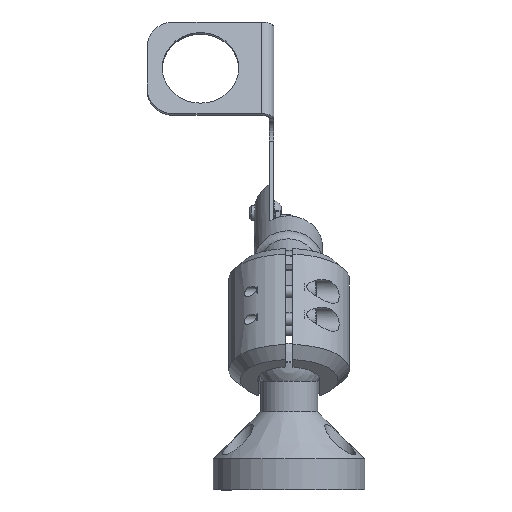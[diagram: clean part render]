
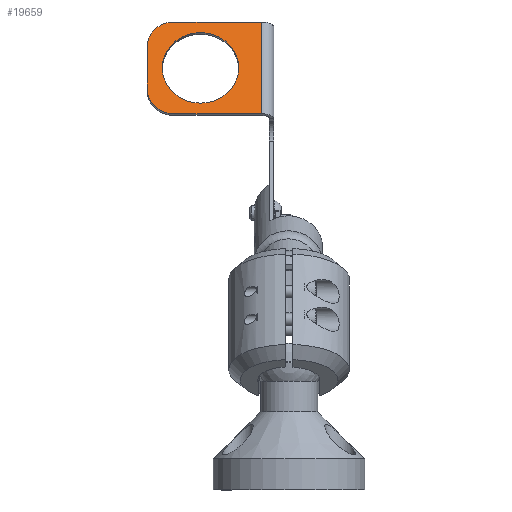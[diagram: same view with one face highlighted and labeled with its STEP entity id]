
A CAD part, left-side view. The second image highlights one B-rep face of the part: STEP entity #19659.
In plain terms, the highlighted planar face has unit normal (-0.925, 0, 0.38) as drawn and (0, 0, 1) by its records, which use the part's own axes.
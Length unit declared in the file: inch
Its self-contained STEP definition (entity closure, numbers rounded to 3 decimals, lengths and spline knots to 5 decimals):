
#51 = EDGE_CURVE ( 'NONE', #28919, #33218, #30068, .T. ) ;
#465 = CARTESIAN_POINT ( 'NONE',  ( 1.625, 0., 0.1997 ) ) ;
#805 = CARTESIAN_POINT ( 'NONE',  ( 0.4375, -2.0747, 0.1997 ) ) ;
#1961 = CARTESIAN_POINT ( 'NONE',  ( 1.1875, -1.6372, 0.1997 ) ) ;
#2208 = DIRECTION ( 'NONE',  ( 0., 1., 0. ) ) ;
#4703 = CIRCLE ( 'NONE', #22935, 0.4375 ) ;
#4955 = VERTEX_POINT ( 'NONE', #20790 ) ;
#5374 = VECTOR ( 'NONE', #36937, 39.37008 ) ;
#5850 = EDGE_CURVE ( 'NONE', #37094, #21529, #9702, .T. ) ;
#6815 = VERTEX_POINT ( 'NONE', #805 ) ;
#7181 = CARTESIAN_POINT ( 'NONE',  ( 0.8125, -1.1997, 0.1997 ) ) ;
#7410 = ORIENTED_EDGE ( 'NONE', *, *, #33200, .T. ) ;
#7544 = VECTOR ( 'NONE', #22865, 39.37008 ) ;
#7785 = ORIENTED_EDGE ( 'NONE', *, *, #5850, .T. ) ;
#7902 = ORIENTED_EDGE ( 'NONE', *, *, #18996, .T. ) ;
#9702 = LINE ( 'NONE', #465, #28144 ) ;
#9732 = FACE_BOUND ( 'NONE', #31913, .T. ) ;
#10153 = VERTEX_POINT ( 'NONE', #17416 ) ;
#12707 = CIRCLE ( 'NONE', #38761, 0.4375 ) ;
#13414 = EDGE_LOOP ( 'NONE', ( #21210, #7410, #7902, #26864, #7785, #19934 ) ) ;
#13983 = DIRECTION ( 'NONE',  ( 0., 1., 0. ) ) ;
#15012 = EDGE_CURVE ( 'NONE', #4955, #37094, #12707, .T. ) ;
#15417 = DIRECTION ( 'NONE',  ( 0., 0., 1. ) ) ;
#17360 = CARTESIAN_POINT ( 'NONE',  ( 1.625, -1.6372, 0.1997 ) ) ;
#17416 = CARTESIAN_POINT ( 'NONE',  ( 0.8125, -0.5747, 0.1997 ) ) ;
#17809 = CARTESIAN_POINT ( 'NONE',  ( 1.625, -0.1997, 0.1997 ) ) ;
#17851 = CARTESIAN_POINT ( 'NONE',  ( 0., -0.1997, 0.1997 ) ) ;
#18996 = EDGE_CURVE ( 'NONE', #6815, #4955, #23471, .T. ) ;
#19659 = ADVANCED_FACE ( 'NONE', ( #9732, #29588 ), #43234, .F. ) ;
#19934 = ORIENTED_EDGE ( 'NONE', *, *, #34203, .F. ) ;
#20604 = EDGE_CURVE ( 'NONE', #10153, #10153, #30034, .T. ) ;
#20790 = CARTESIAN_POINT ( 'NONE',  ( 1.1875, -2.0747, 0.1997 ) ) ;
#21210 = ORIENTED_EDGE ( 'NONE', *, *, #51, .T. ) ;
#21529 = VERTEX_POINT ( 'NONE', #17809 ) ;
#21970 = DIRECTION ( 'NONE',  ( 0., 0., 1. ) ) ;
#22865 = DIRECTION ( 'NONE',  ( 1., 0., 0. ) ) ;
#22935 = AXIS2_PLACEMENT_3D ( 'NONE', #39438, #15417, #2208 ) ;
#23471 = LINE ( 'NONE', #36073, #5374 ) ;
#25071 = DIRECTION ( 'NONE',  ( 0., 1., 0. ) ) ;
#25756 = CARTESIAN_POINT ( 'NONE',  ( 1.625, -0.1997, 0.1997 ) ) ;
#26437 = AXIS2_PLACEMENT_3D ( 'NONE', #7181, #34249, #13983 ) ;
#26864 = ORIENTED_EDGE ( 'NONE', *, *, #15012, .T. ) ;
#28144 = VECTOR ( 'NONE', #33073, 39.37008 ) ;
#28919 = VERTEX_POINT ( 'NONE', #17851 ) ;
#29588 = FACE_OUTER_BOUND ( 'NONE', #13414, .T. ) ;
#30034 = CIRCLE ( 'NONE', #26437, 0.625 ) ;
#30068 = LINE ( 'NONE', #43294, #37703 ) ;
#31913 = EDGE_LOOP ( 'NONE', ( #32865 ) ) ;
#32159 = LINE ( 'NONE', #25756, #7544 ) ;
#32865 = ORIENTED_EDGE ( 'NONE', *, *, #20604, .F. ) ;
#33073 = DIRECTION ( 'NONE',  ( 0., 1., 0. ) ) ;
#33156 = DIRECTION ( 'NONE',  ( 0., -1., 0. ) ) ;
#33200 = EDGE_CURVE ( 'NONE', #33218, #6815, #4703, .T. ) ;
#33218 = VERTEX_POINT ( 'NONE', #42726 ) ;
#34203 = EDGE_CURVE ( 'NONE', #28919, #21529, #32159, .T. ) ;
#34249 = DIRECTION ( 'NONE',  ( 0., 0., 1. ) ) ;
#36073 = CARTESIAN_POINT ( 'NONE',  ( 0., -2.0747, 0.1997 ) ) ;
#36937 = DIRECTION ( 'NONE',  ( 1., 0., 0. ) ) ;
#37094 = VERTEX_POINT ( 'NONE', #17360 ) ;
#37703 = VECTOR ( 'NONE', #33156, 39.37008 ) ;
#38761 = AXIS2_PLACEMENT_3D ( 'NONE', #1961, #21970, #25071 ) ;
#39056 = DIRECTION ( 'NONE',  ( 0., 1., 0. ) ) ;
#39123 = AXIS2_PLACEMENT_3D ( 'NONE', #39717, #43031, #39056 ) ;
#39438 = CARTESIAN_POINT ( 'NONE',  ( 0.4375, -1.6372, 0.1997 ) ) ;
#39717 = CARTESIAN_POINT ( 'NONE',  ( 0., 0., 0.1997 ) ) ;
#42726 = CARTESIAN_POINT ( 'NONE',  ( 0., -1.6372, 0.1997 ) ) ;
#43031 = DIRECTION ( 'NONE',  ( 0., 0., -1. ) ) ;
#43234 = PLANE ( 'NONE',  #39123 ) ;
#43294 = CARTESIAN_POINT ( 'NONE',  ( 0., 0., 0.1997 ) ) ;
